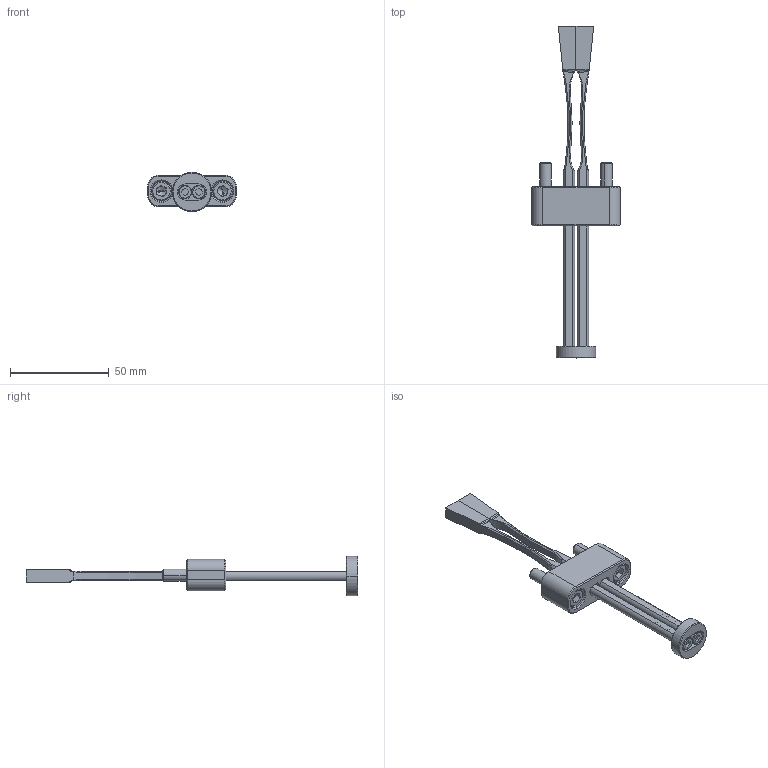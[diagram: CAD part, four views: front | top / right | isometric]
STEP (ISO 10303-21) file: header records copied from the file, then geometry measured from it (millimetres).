
FILE_DESCRIPTION (( 'STEP AP203' ), '1' );
FILE_NAME ('FCDA9X6L160.step', '2015-12-03T17:17:25', ( '' ), ( '' ), 'SwSTEP 2.0', 'SolidWorks 2014', '' );
FILE_SCHEMA (( 'CONFIG_CONTROL_DESIGN' ));
Length unit declared in the file: millimetre
Products named in the file (6): FCDBG-6; LOW-HD-SHCS-M4X20; SHCS-M6X25; FCDA9X6L160; FC9X6L160; FCDHP-4
Assembly tree (8 placements, depth 2):
  FCDA9X6L160
    FC9X6L160  x2
    FCDHP-4
    FCDBG-6
    SHCS-M6X25  x2
    LOW-HD-SHCS-M4X20  x2
Bounding box: 44.96 x 168.49 x 19.99 mm (x, y, z)
Volume: 22227.7 mm3; surface area: 15248.1 mm2
Topology: 8 solids, 8 shells, 248 faces, 581 edges, 354 vertices
Faces by surface type: plane 101, cylinder 71, cone 64, bspline 8, torus 4
Entity records: 5678 total; most frequent: CARTESIAN_POINT 1148, DIRECTION 828, ORIENTED_EDGE 772, EDGE_CURVE 386, AXIS2_PLACEMENT_3D 316, VERTEX_POINT 236, LINE 196, VECTOR 196
